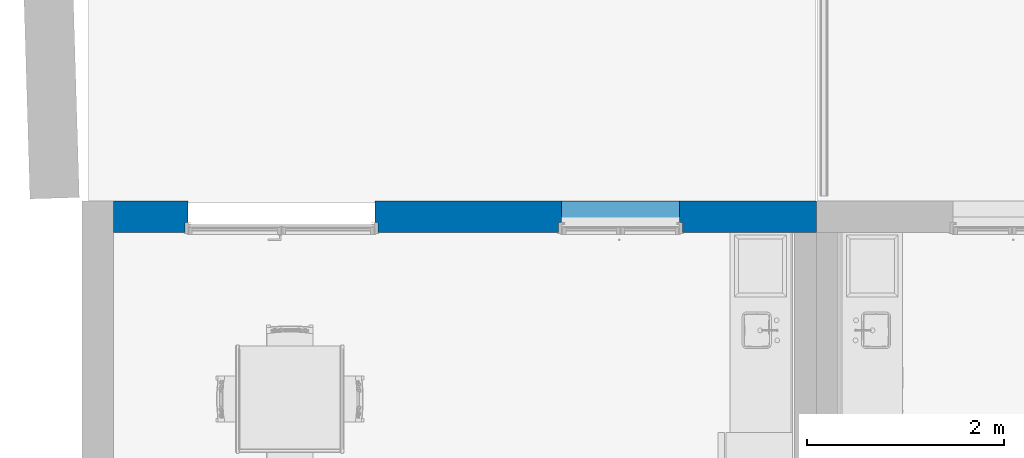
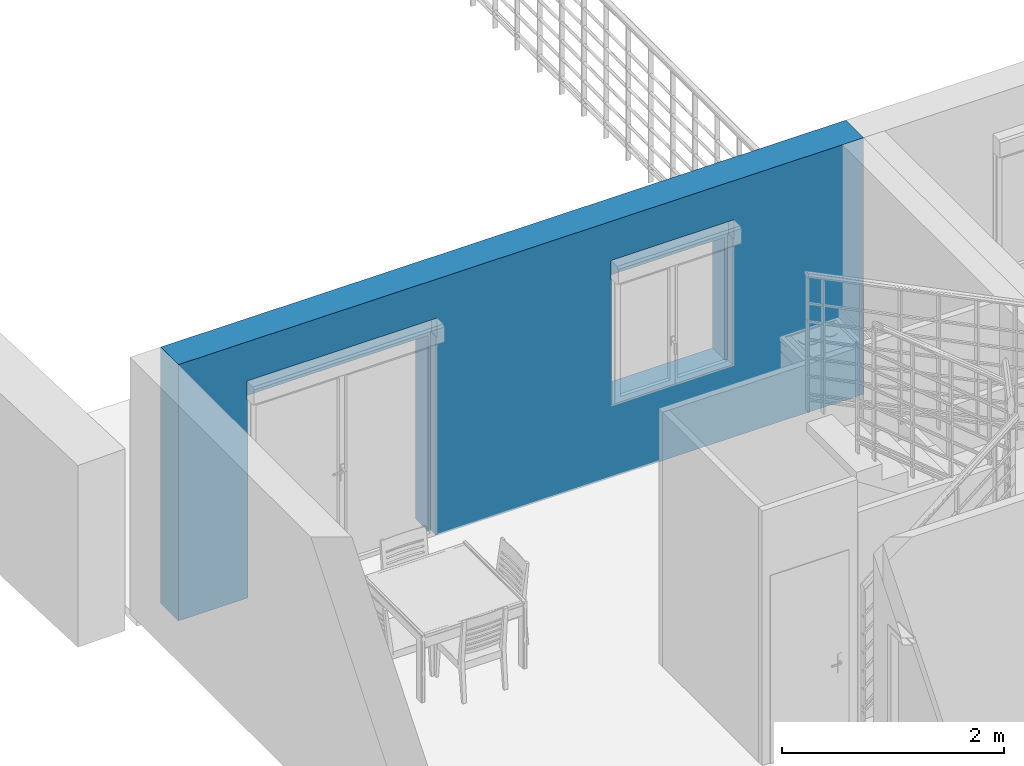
# One storey, part 10 of 30: 1 wall, 2 openings.
"""IFC2X3 building model written with IfcOpenShell, lengths in metres."""

from ifc_helpers import new_model, entity, si_unit, converted_unit, derived_unit, direction, frame, frame_2d, origin, place, context, subcontext, project, spatial, rectangle, extrude, faceted_brep, material, layer, layer_set, layer_usage, type_object, element, save


model = new_model("IFC2X3")

# Units and contexts
model_context = context("Model", 3, precision=1e-05, world=origin(), true_north=direction((6.12303176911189e-17, 1.0)))
body_context = subcontext(model_context, "Body", "Model", "MODEL_VIEW")
ifc_project = project(units=[si_unit("LENGTHUNIT", "METRE"), si_unit("AREAUNIT", "SQUARE_METRE"), si_unit("VOLUMEUNIT", "CUBIC_METRE"), converted_unit("PLANEANGLEUNIT", "DEGREE", entity("IfcRatioMeasure", 0.0174532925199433), si_unit("PLANEANGLEUNIT", "RADIAN"), dimensions=[0, 0, 0, 0, 0, 0, 0]), si_unit("MASSUNIT", "GRAM", prefix="KILO"), derived_unit("MASSDENSITYUNIT", [(si_unit("MASSUNIT", "GRAM", prefix="KILO"), 1), (si_unit("LENGTHUNIT", "METRE"), -3)]), si_unit("TIMEUNIT", "SECOND"), si_unit("FREQUENCYUNIT", "HERTZ"), si_unit("THERMODYNAMICTEMPERATUREUNIT", "DEGREE_CELSIUS"), derived_unit("THERMALTRANSMITTANCEUNIT", [(si_unit("MASSUNIT", "GRAM", prefix="KILO"), 1), (si_unit("THERMODYNAMICTEMPERATUREUNIT", "KELVIN"), -1), (si_unit("TIMEUNIT", "SECOND"), -3)]), derived_unit("VOLUMETRICFLOWRATEUNIT", [(si_unit("LENGTHUNIT", "METRE"), 3), (si_unit("TIMEUNIT", "SECOND"), -1)]), si_unit("ELECTRICCURRENTUNIT", "AMPERE"), si_unit("ELECTRICVOLTAGEUNIT", "VOLT"), si_unit("POWERUNIT", "WATT"), si_unit("FORCEUNIT", "NEWTON", prefix="KILO"), si_unit("ILLUMINANCEUNIT", "LUX"), si_unit("LUMINOUSFLUXUNIT", "LUMEN"), si_unit("LUMINOUSINTENSITYUNIT", "CANDELA"), derived_unit("USERDEFINED", [(si_unit("MASSUNIT", "GRAM", prefix="KILO"), -1), (si_unit("LENGTHUNIT", "METRE"), -2), (si_unit("TIMEUNIT", "SECOND"), 3), (si_unit("LUMINOUSFLUXUNIT", "LUMEN"), 1)]), derived_unit("LINEARVELOCITYUNIT", [(si_unit("LENGTHUNIT", "METRE"), 1), (si_unit("TIMEUNIT", "SECOND"), -1)]), si_unit("PRESSUREUNIT", "PASCAL"), derived_unit("USERDEFINED", [(si_unit("LENGTHUNIT", "METRE"), -2), (si_unit("MASSUNIT", "GRAM", prefix="KILO"), 1), (si_unit("TIMEUNIT", "SECOND"), -2)])], contexts=[model_context])

# Site, building, storey
site_placement = place(None, origin())
site = spatial("IfcSite", under=ifc_project, at=site_placement, Name="Surface", CompositionType="ELEMENT")
building_placement = place(site_placement, origin())
building = spatial("IfcBuilding", under=site, at=building_placement, CompositionType="ELEMENT")
storey_placement = place(building_placement, origin())
storey = spatial("IfcBuildingStorey", under=building, at=storey_placement, Name="Plan des fondations  Maisons 1 et 2", CompositionType="ELEMENT", Elevation=0.0)

# Wall, openings
ifc_material_1 = material(Name="Enduit blanc cassé2")
ifc_layer_1 = layer(ifc_material_1, 0.02)
ifc_material_2 = material(Name="Parpaing")
ifc_layer_2 = layer(ifc_material_2, 0.2)
ifc_material_3 = material(Name="Isolant")
ifc_layer_3 = layer(ifc_material_3, 0.1)
ifc_layer_set = layer_set([ifc_layer_1, ifc_layer_2, ifc_layer_3], Name="Mur de base:Ext. Parpaing 20 + Isolant 10 enduit blanc cassé")
ifc_layer_usage = layer_usage(ifc_layer_set, "AXIS2", "NEGATIVE", 0.16)
wall_type = type_object("IfcWallType", Name="Mur de base:Ext. Parpaing 20 + Isolant 10 enduit blanc cassé", PredefinedType="STANDARD", material=ifc_layer_set)
wall_placement = place(storey_placement, frame((61.7063634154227, 88.2677566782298, 0.0)))
wall = element("IfcWallStandardCase", 1, at=wall_placement, inside=storey, type_object=wall_type, material=ifc_layer_usage, Name="Mur de base:Ext. Parpaing 20 + Isolant 10 enduit blanc cassé", ObjectType="Mur de base:Ext. Parpaing 20 + Isolant 10 enduit blanc cassé", context=body_context, shape_type="SweptSolid", body=[
    extrude(rectangle(XDim=7.1282629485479, YDim=0.319999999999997, at=frame_2d((3.56413147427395, 2.52575738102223e-15), x_axis=(-1.0, 0.0))), origin(), (0.0, 0.0, 1.0), 2.82),
])
opening_1_placement = place(wall_placement, frame((0.713096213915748, -0.259999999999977, 0.0)))
element("IfcOpeningElement", 2, at=opening_1_placement, cuts=wall, Name="Mur de base:Ext. Parpaing 20 + Isolant 10 enduit blanc cassé", ObjectType="Opening", context=body_context, shape_type="Brep", body=[
    faceted_brep([(1.93997696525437, 0.72000000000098, 2.15), (0.0399769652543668, 0.720000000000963, 2.15), (0.0399769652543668, 0.199999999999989, 2.15), (1.93997696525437, 0.200000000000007, 2.15), (0.0399769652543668, 0.720000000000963, 0.0), (1.93997696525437, 0.72000000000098, 0.0), (1.93997696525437, 0.200000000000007, 0.0), (1.96997696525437, 0.200000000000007, 0.0), (1.96997696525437, 0.100000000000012, 0.0), (1.93997696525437, 0.100000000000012, 0.0), (1.93997696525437, 0.0, 0.0), (0.0399769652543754, 0.0, 0.0), (0.0399769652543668, 0.0999999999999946, 0.0), (0.00997696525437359, 0.0999999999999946, 0.0), (0.00997696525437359, 0.199999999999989, 0.0), (0.0399769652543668, 0.199999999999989, 0.0), (1.93997696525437, 0.0, 2.15), (0.0399769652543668, 0.0, 2.15), (1.96997696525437, 0.0999999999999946, 2.18), (1.97995393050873, 0.0999999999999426, 2.18000000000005), (1.97995393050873, 0.0999999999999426, 2.39000000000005), (0.0, 0.0999999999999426, 2.39000000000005), (0.0, 0.0999999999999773, 2.18000000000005), (0.00997696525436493, 0.0999999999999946, 2.18), (0.0399769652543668, 0.0999999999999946, 2.15), (1.93997696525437, 0.0999999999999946, 2.15), (1.96997696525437, 0.199999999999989, 2.18000000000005), (0.00997696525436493, 0.199999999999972, 2.18000000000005), (0.0, 0.199999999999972, 2.18000000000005), (0.0, 0.199999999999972, 2.39000000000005), (1.97995393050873, 0.199999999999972, 2.39000000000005), (1.97995393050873, 0.199999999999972, 2.18000000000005)], [[[0, 1, 2, 3]], [[4, 5, 6, 7, 8, 9, 10, 11, 12, 13, 14, 15]], [[1, 0, 5, 4]], [[5, 0, 3, 6]], [[16, 17, 11, 10]], [[1, 4, 15, 2]], [[9, 8, 18, 19, 20, 21, 22, 23, 13, 12, 24, 25]], [[8, 7, 26, 18]], [[7, 6, 3, 2, 15, 14, 27, 28, 29, 30, 31, 26]], [[13, 23, 27, 14]], [[31, 30, 20, 19]], [[28, 22, 21, 29]], [[31, 19, 18, 26]], [[20, 30, 29, 21]], [[22, 28, 27, 23]], [[11, 17, 24, 12]], [[16, 10, 9, 25]], [[17, 16, 25, 24]]]),
])
opening_2_placement = place(wall_placement, frame((4.50220465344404, -0.259999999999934, 0.799999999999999)))
element("IfcOpeningElement", 3, at=opening_2_placement, cuts=wall, Name="Mur de base:Ext. Parpaing 20 + Isolant 10 enduit blanc cassé", ObjectType="Opening", context=body_context, shape_type="Brep", body=[
    faceted_brep([(1.24000000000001, 0.720000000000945, 1.35), (0.0400000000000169, 0.720000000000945, 1.35), (0.0400000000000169, 0.199999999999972, 1.35), (1.24000000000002, 0.199999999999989, 1.35), (0.0400000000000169, 0.720000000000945, 0.0), (1.24000000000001, 0.720000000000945, 0.0), (1.24000000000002, 0.199999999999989, 0.0), (1.27000000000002, 0.199999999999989, 0.0), (1.27000000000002, 0.0999999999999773, 0.0), (1.24000000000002, 0.0999999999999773, 0.0), (1.24000000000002, 0.0, 0.0), (0.0400000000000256, 0.0, 0.0), (0.0400000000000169, 0.0999999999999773, 0.0), (0.0100000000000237, 0.0999999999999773, 0.0), (0.0100000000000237, 0.199999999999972, 0.0), (0.0400000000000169, 0.199999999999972, 0.0), (1.24000000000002, 0.0, 1.35), (0.0400000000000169, 0.0, 1.35), (1.27000000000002, 0.0999999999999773, 1.38), (1.28000000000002, 0.100000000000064, 1.38000000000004), (1.28000000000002, 0.100000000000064, 1.59000000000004), (0.0, 0.100000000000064, 1.59000000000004), (0.0, 0.0999999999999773, 1.38000000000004), (0.0100000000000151, 0.0999999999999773, 1.38), (0.0400000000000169, 0.0999999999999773, 1.35), (1.24000000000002, 0.0999999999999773, 1.35), (1.27000000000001, 0.199999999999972, 1.38000000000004), (0.0100000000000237, 0.199999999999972, 1.38000000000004), (0.0, 0.199999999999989, 1.38000000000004), (0.0, 0.199999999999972, 1.59000000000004), (1.28000000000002, 0.199999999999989, 1.59000000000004), (1.28000000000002, 0.199999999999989, 1.38000000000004)], [[[0, 1, 2, 3]], [[4, 5, 6, 7, 8, 9, 10, 11, 12, 13, 14, 15]], [[1, 0, 5, 4]], [[5, 0, 3, 6]], [[16, 17, 11, 10]], [[1, 4, 15, 2]], [[9, 8, 18, 19, 20, 21, 22, 23, 13, 12, 24, 25]], [[8, 7, 26, 18]], [[7, 6, 3, 2, 15, 14, 27, 28, 29, 30, 31, 26]], [[13, 23, 27, 14]], [[31, 30, 20, 19]], [[28, 22, 21, 29]], [[31, 19, 18, 26]], [[20, 30, 29, 21]], [[22, 28, 27, 23]], [[11, 17, 24, 12]], [[16, 10, 9, 25]], [[17, 16, 25, 24]]]),
])

save(model, "model.ifc")
